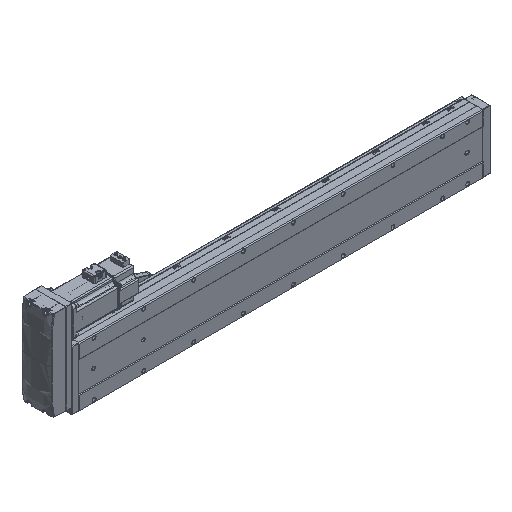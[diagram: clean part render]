
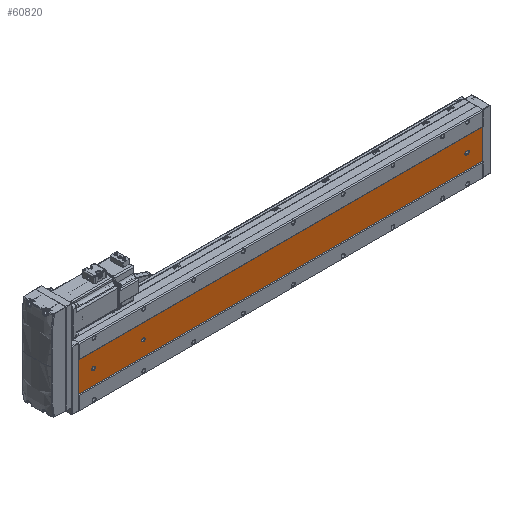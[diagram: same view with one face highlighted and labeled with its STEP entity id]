
A CAD part, isometric view. The second image highlights one B-rep face of the part: STEP entity #60820.
In plain terms, the highlighted planar face has unit normal (0, -1, 0).
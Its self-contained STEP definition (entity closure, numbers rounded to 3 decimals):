
#2758 = CARTESIAN_POINT ( 'NONE',  ( -39.892, -52.848, 681. ) ) ;
#3508 = EDGE_LOOP ( 'NONE', ( #53887, #44684, #73108, #75319 ) ) ;
#3706 = CIRCLE ( 'NONE', #29442, 3.5 ) ;
#4188 = FACE_OUTER_BOUND ( 'NONE', #3508, .T. ) ;
#4315 = DIRECTION ( 'NONE',  ( 0., 0., 1. ) ) ;
#4436 = ORIENTED_EDGE ( 'NONE', *, *, #39472, .T. ) ;
#5706 = CIRCLE ( 'NONE', #89998, 3.5 ) ;
#7162 = VERTEX_POINT ( 'NONE', #106940 ) ;
#7994 = DIRECTION ( 'NONE',  ( 0., 0., -1. ) ) ;
#9249 = VERTEX_POINT ( 'NONE', #66861 ) ;
#11223 = CIRCLE ( 'NONE', #12196, 3.5 ) ;
#11300 = VERTEX_POINT ( 'NONE', #86735 ) ;
#12196 = AXIS2_PLACEMENT_3D ( 'NONE', #106662, #81567, #105945 ) ;
#13058 = VECTOR ( 'NONE', #41456, 1000. ) ;
#13080 = DIRECTION ( 'NONE',  ( 0., 1., 0. ) ) ;
#14510 = EDGE_CURVE ( 'NONE', #39698, #67607, #103382, .T. ) ;
#15291 = DIRECTION ( 'NONE',  ( 0., 0., 1. ) ) ;
#17198 = EDGE_LOOP ( 'NONE', ( #27924, #85341 ) ) ;
#20960 = CARTESIAN_POINT ( 'NONE',  ( -39.892, -52.848, 30. ) ) ;
#21963 = LINE ( 'NONE', #73805, #35081 ) ;
#22563 = ORIENTED_EDGE ( 'NONE', *, *, #74473, .T. ) ;
#22612 = DIRECTION ( 'NONE',  ( 0., 0., 1. ) ) ;
#25948 = CARTESIAN_POINT ( 'NONE',  ( -39.892, -52.848, 677.5 ) ) ;
#26027 = CARTESIAN_POINT ( 'NONE',  ( -69.892, -52.848, 811. ) ) ;
#27428 = VECTOR ( 'NONE', #56431, 1000. ) ;
#27924 = ORIENTED_EDGE ( 'NONE', *, *, #100085, .T. ) ;
#28756 = EDGE_LOOP ( 'NONE', ( #36334, #103539, #49636, #4436, #22563 ) ) ;
#29442 = AXIS2_PLACEMENT_3D ( 'NONE', #105600, #48525, #15291 ) ;
#32234 = VECTOR ( 'NONE', #22612, 1000. ) ;
#33752 = AXIS2_PLACEMENT_3D ( 'NONE', #71633, #13080, #94592 ) ;
#35081 = VECTOR ( 'NONE', #48768, 1000. ) ;
#36334 = ORIENTED_EDGE ( 'NONE', *, *, #37268, .T. ) ;
#37015 = VECTOR ( 'NONE', #7994, 1000. ) ;
#37268 = EDGE_CURVE ( 'NONE', #50579, #11300, #93371, .T. ) ;
#37736 = DIRECTION ( 'NONE',  ( 0., 1., 0. ) ) ;
#38117 = DIRECTION ( 'NONE',  ( 0., 0., 1. ) ) ;
#39110 = CARTESIAN_POINT ( 'NONE',  ( -39.892, -52.848, 684.5 ) ) ;
#39472 = EDGE_CURVE ( 'NONE', #7162, #67909, #5706, .T. ) ;
#39607 = CARTESIAN_POINT ( 'NONE',  ( -39.892, -52.848, 784.5 ) ) ;
#39698 = VERTEX_POINT ( 'NONE', #91670 ) ;
#40855 = EDGE_CURVE ( 'NONE', #106572, #9249, #79437, .T. ) ;
#41456 = DIRECTION ( 'NONE',  ( 0., 0., -1. ) ) ;
#41861 = LINE ( 'NONE', #80674, #69265 ) ;
#42579 = CARTESIAN_POINT ( 'NONE',  ( -39.892, -52.848, 26.5 ) ) ;
#42987 = CARTESIAN_POINT ( 'NONE',  ( -69.892, -52.848, 0. ) ) ;
#43461 = ORIENTED_EDGE ( 'NONE', *, *, #46757, .T. ) ;
#44684 = ORIENTED_EDGE ( 'NONE', *, *, #40855, .F. ) ;
#46757 = EDGE_CURVE ( 'NONE', #64012, #84444, #11223, .T. ) ;
#46852 = DIRECTION ( 'NONE',  ( 0., 1., 0. ) ) ;
#48095 = AXIS2_PLACEMENT_3D ( 'NONE', #26027, #99943, #66783 ) ;
#48525 = DIRECTION ( 'NONE',  ( 0., 1., 0. ) ) ;
#48768 = DIRECTION ( 'NONE',  ( 1., 0., 0. ) ) ;
#49636 = ORIENTED_EDGE ( 'NONE', *, *, #75507, .T. ) ;
#50118 = EDGE_LOOP ( 'NONE', ( #43461, #103453 ) ) ;
#50579 = VERTEX_POINT ( 'NONE', #54357 ) ;
#51595 = AXIS2_PLACEMENT_3D ( 'NONE', #2758, #103471, #60535 ) ;
#53887 = ORIENTED_EDGE ( 'NONE', *, *, #72530, .T. ) ;
#54357 = CARTESIAN_POINT ( 'NONE',  ( -43.392, -52.848, 30. ) ) ;
#54456 = CARTESIAN_POINT ( 'NONE',  ( -36.392, -52.848, 32. ) ) ;
#55130 = CARTESIAN_POINT ( 'NONE',  ( -39.892, -52.848, 681. ) ) ;
#56194 = FACE_BOUND ( 'NONE', #50118, .T. ) ;
#56431 = DIRECTION ( 'NONE',  ( 1., 0., 0. ) ) ;
#56800 = CARTESIAN_POINT ( 'NONE',  ( -69.892, -52.848, 0. ) ) ;
#60310 = EDGE_CURVE ( 'NONE', #76637, #61874, #83671, .T. ) ;
#60535 = DIRECTION ( 'NONE',  ( 0., 0., 1. ) ) ;
#60652 = VERTEX_POINT ( 'NONE', #54456 ) ;
#60820 = ADVANCED_FACE ( 'NONE', ( #78341, #73131, #56194, #4188 ), #81375, .F. ) ;
#60966 = AXIS2_PLACEMENT_3D ( 'NONE', #20960, #46852, #4315 ) ;
#61874 = VERTEX_POINT ( 'NONE', #25948 ) ;
#63634 = EDGE_CURVE ( 'NONE', #84444, #64012, #67757, .T. ) ;
#64012 = VERTEX_POINT ( 'NONE', #103098 ) ;
#65095 = CARTESIAN_POINT ( 'NONE',  ( -39.892, -52.848, 30. ) ) ;
#65467 = DIRECTION ( 'NONE',  ( 0., 1., 0. ) ) ;
#66783 = DIRECTION ( 'NONE',  ( 0., 0., 1. ) ) ;
#66861 = CARTESIAN_POINT ( 'NONE',  ( -9.892, -52.848, 0. ) ) ;
#67607 = VERTEX_POINT ( 'NONE', #42987 ) ;
#67757 = CIRCLE ( 'NONE', #33752, 3.5 ) ;
#67909 = VERTEX_POINT ( 'NONE', #42579 ) ;
#69265 = VECTOR ( 'NONE', #81044, 1000. ) ;
#71633 = CARTESIAN_POINT ( 'NONE',  ( -39.892, -52.848, 781. ) ) ;
#72530 = EDGE_CURVE ( 'NONE', #67607, #9249, #106863, .T. ) ;
#72803 = CARTESIAN_POINT ( 'NONE',  ( -43.392, -52.848, 811. ) ) ;
#73108 = ORIENTED_EDGE ( 'NONE', *, *, #93877, .F. ) ;
#73131 = FACE_BOUND ( 'NONE', #17198, .T. ) ;
#73805 = CARTESIAN_POINT ( 'NONE',  ( -69.892, -52.848, 811. ) ) ;
#74473 = EDGE_CURVE ( 'NONE', #67909, #50579, #100142, .T. ) ;
#75319 = ORIENTED_EDGE ( 'NONE', *, *, #14510, .T. ) ;
#75507 = EDGE_CURVE ( 'NONE', #60652, #7162, #41861, .T. ) ;
#76637 = VERTEX_POINT ( 'NONE', #39110 ) ;
#78341 = FACE_BOUND ( 'NONE', #28756, .T. ) ;
#79437 = LINE ( 'NONE', #100730, #13058 ) ;
#80674 = CARTESIAN_POINT ( 'NONE',  ( -36.392, -52.848, 811. ) ) ;
#81044 = DIRECTION ( 'NONE',  ( 0., 0., -1. ) ) ;
#81375 = PLANE ( 'NONE',  #48095 ) ;
#81567 = DIRECTION ( 'NONE',  ( 0., 1., 0. ) ) ;
#83671 = CIRCLE ( 'NONE', #51595, 3.5 ) ;
#84444 = VERTEX_POINT ( 'NONE', #39607 ) ;
#85341 = ORIENTED_EDGE ( 'NONE', *, *, #60310, .T. ) ;
#86735 = CARTESIAN_POINT ( 'NONE',  ( -43.392, -52.848, 32. ) ) ;
#89998 = AXIS2_PLACEMENT_3D ( 'NONE', #65095, #65467, #107296 ) ;
#90614 = AXIS2_PLACEMENT_3D ( 'NONE', #55130, #37736, #38117 ) ;
#91670 = CARTESIAN_POINT ( 'NONE',  ( -69.892, -52.848, 811. ) ) ;
#91991 = EDGE_CURVE ( 'NONE', #11300, #60652, #3706, .T. ) ;
#93371 = LINE ( 'NONE', #72803, #32234 ) ;
#93877 = EDGE_CURVE ( 'NONE', #39698, #106572, #21963, .T. ) ;
#94592 = DIRECTION ( 'NONE',  ( 0., 0., 1. ) ) ;
#99415 = CARTESIAN_POINT ( 'NONE',  ( -9.892, -52.848, 811. ) ) ;
#99943 = DIRECTION ( 'NONE',  ( 0., 1., 0. ) ) ;
#100085 = EDGE_CURVE ( 'NONE', #61874, #76637, #106500, .T. ) ;
#100142 = CIRCLE ( 'NONE', #60966, 3.5 ) ;
#100730 = CARTESIAN_POINT ( 'NONE',  ( -9.892, -52.848, 811. ) ) ;
#103098 = CARTESIAN_POINT ( 'NONE',  ( -39.892, -52.848, 777.5 ) ) ;
#103382 = LINE ( 'NONE', #106571, #37015 ) ;
#103453 = ORIENTED_EDGE ( 'NONE', *, *, #63634, .T. ) ;
#103471 = DIRECTION ( 'NONE',  ( 0., 1., 0. ) ) ;
#103539 = ORIENTED_EDGE ( 'NONE', *, *, #91991, .T. ) ;
#105600 = CARTESIAN_POINT ( 'NONE',  ( -39.892, -52.848, 32. ) ) ;
#105945 = DIRECTION ( 'NONE',  ( 0., 0., 1. ) ) ;
#106500 = CIRCLE ( 'NONE', #90614, 3.5 ) ;
#106571 = CARTESIAN_POINT ( 'NONE',  ( -69.892, -52.848, 811. ) ) ;
#106572 = VERTEX_POINT ( 'NONE', #99415 ) ;
#106662 = CARTESIAN_POINT ( 'NONE',  ( -39.892, -52.848, 781. ) ) ;
#106863 = LINE ( 'NONE', #56800, #27428 ) ;
#106940 = CARTESIAN_POINT ( 'NONE',  ( -36.392, -52.848, 30. ) ) ;
#107296 = DIRECTION ( 'NONE',  ( 0., 0., 1. ) ) ;
